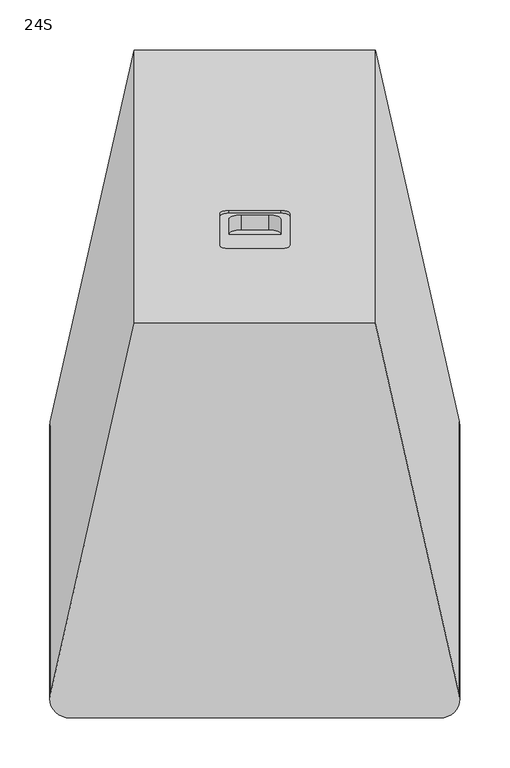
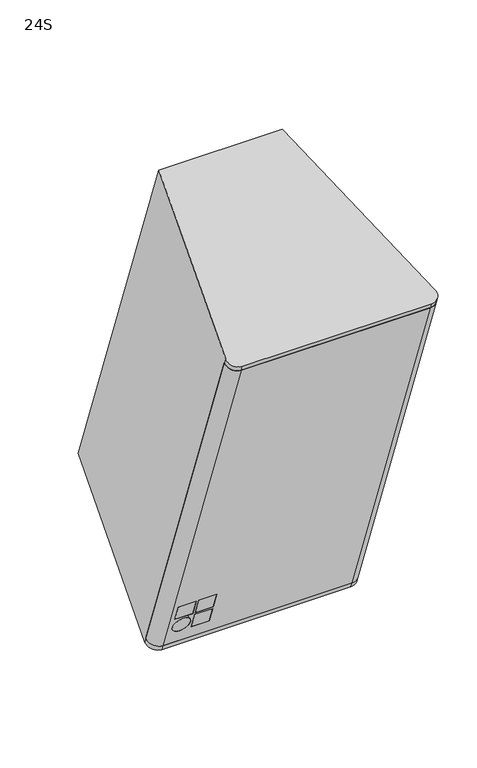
"""IFC4 building model written with IfcOpenShell, lengths in millimetres: proxy geometry, d&b xS-Series 24S Point Source : 24S."""

from ifc_helpers import new_model, si_unit, point, frame, frame_2d, origin, place, context, project, spatial, polyline, circle_curve, trimmed, segment, composite_curve, outline, extrude, source, transform, mapped, element, save
from ifc_brep_helpers import plane_surface, cylinder_surface, revolved_surface, advanced_brep


def proxy_24s_20e2b4ed(model_context):
    return source(origin(), model_context, "Body", "SolidModel", [
        extrude(outline(composite_curve([segment(polyline([(-4.1582338, -29.4121161), (-4.1582338, 370.0162299)]), True, "CONTINUOUS"), segment(trimmed(circle_curve(frame_2d((0.0, 355.6041138)), 15.0), [point((-4.1582338, 370.0162299))], [point((15.0, 355.6041138))], False, "CARTESIAN"), True, "CONTINUOUS"), segment(polyline([(15.0, 355.6041138), (15.0, -15.0)]), True, "CONTINUOUS"), segment(trimmed(circle_curve(frame_2d((0.0, -15.0)), 15.0), [point((15.0, -15.0))], [point((-4.1582338, -29.4121161))], False, "CARTESIAN"), True, "CONTINUOUS")], self_intersect=False)), frame((-170.3020569, -45.4957622, -430.5242567), z_axis=(0.0, -0.34202014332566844, 0.9396926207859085), x_axis=(0.0, -0.9396926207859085, -0.34202014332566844)), (0.0, 0.0, 1.0), 778.0),
        advanced_brep(
        [(-140.3020569, -99.8597095, -339.636627), (-140.3020569, -95.1612464, -337.9265263), (-140.3020569, -83.1905414, -370.815768), (-140.3020569, -87.8890045, -372.5258687), (-175.3020569, -83.1905414, -370.815768), (-175.3020569, -87.8890045, -372.5258687), (-175.3020569, -95.1612464, -337.9265263), (-175.3020569, -99.8597095, -339.636627), (-100.3020569, -99.8597095, -339.636627), (-100.3020569, -95.1612464, -337.9265263), (-100.3020569, -83.1905414, -370.815768), (-100.3020569, -87.8890045, -372.5258687), (-135.3020569, -83.1905414, -370.815768), (-135.3020569, -87.8890045, -372.5258687), (-135.3020569, -95.1612464, -337.9265263), (-135.3020569, -99.8597095, -339.636627), (-100.3020569, -86.1789038, -377.2243319), (-100.3020569, -81.4804407, -375.5142311), (-100.3020569, -69.5097357, -408.4034729), (-100.3020569, -74.2081988, -410.1135736), (-135.3020569, -69.5097357, -408.4034729), (-135.3020569, -74.2081988, -410.1135736), (-135.3020569, -81.4804407, -375.5142311), (-135.3020569, -86.1789038, -377.2243319), (-157.8020569, -74.2081988, -410.1135736), (-157.8020569, -69.5097357, -408.4034729), (-157.8020569, -81.4804407, -375.5142311), (-157.8020569, -86.1789038, -377.2243319), (185.3020569, -330.3812861, 293.7161994), (204.8650089, -307.6799721, 301.978802), (199.714173, -307.6799721, 301.978802), (185.3020569, -325.682823, 295.4263001), (-185.3020569, -325.682823, 295.4263001), (-199.714173, -307.6799721, 301.978802), (-204.8650089, -307.6799721, 301.978802), (-185.3020569, -330.3812861, 293.7161994), (185.3020569, -64.2896146, -437.3646596), (-185.3020569, -64.2896146, -437.3646596), (-204.8650089, -41.5883006, -429.102057), (-199.714173, -41.5883006, -429.102057), (-185.3020569, -59.5911515, -435.6545589), (185.3020569, -59.5911515, -435.6545589), (199.714173, -41.5883006, -429.102057), (204.8650089, -41.5883006, -429.102057)],
        [
            (0, 1),
            (1, 2),
            (2, 3),
            (3, 0),
            (2, 4),
            (4, 5),
            (5, 3),
            (4, 6),
            (6, 7),
            (7, 5),
            (0, 7),
            (6, 1),
            (8, 9),
            (9, 10),
            (10, 11),
            (11, 8),
            (10, 12),
            (12, 13),
            (13, 11),
            (12, 14),
            (14, 15),
            (15, 13),
            (8, 15),
            (14, 9),
            (16, 17),
            (17, 18),
            (18, 19),
            (19, 16),
            (18, 20),
            (20, 21),
            (21, 19),
            (20, 22),
            (22, 23),
            (23, 21),
            (16, 23),
            (22, 17),
            (24, 25),
            (25, 26, circle_curve(frame((-157.8020569, -75.4950882, -391.958852), z_axis=(0.0, 0.939692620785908, 0.34202014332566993), x_axis=(0.0, -0.34202014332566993, 0.939692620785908)), 17.5)),
            (26, 27),
            (27, 24, circle_curve(frame((-157.8020569, -80.1935513, -393.6689527), z_axis=(0.0, -0.939692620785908, -0.34202014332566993), x_axis=(0.0, -0.34202014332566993, 0.939692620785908)), 17.5)),
            (24, 27, circle_curve(frame((-157.8020569, -80.1935513, -393.6689527), z_axis=(0.0, -0.939692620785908, -0.34202014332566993), x_axis=(0.0, -0.34202014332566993, 0.939692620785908)), 17.5)),
            (26, 25, circle_curve(frame((-157.8020569, -75.4950882, -391.958852), z_axis=(0.0, 0.939692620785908, 0.34202014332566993), x_axis=(0.0, -0.34202014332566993, 0.939692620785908)), 17.5)),
            (28, 29, circle_curve(frame((185.3020569, -311.5874337, 300.5566023), z_axis=(0.0, -0.34202014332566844, 0.9396926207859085), x_axis=(0.0, -0.9396926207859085, -0.34202014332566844)), 20.0)),
            (29, 30),
            (30, 31, circle_curve(frame((185.3020569, -311.5874337, 300.5566023), z_axis=(0.0, 0.34202014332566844, -0.9396926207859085), x_axis=(0.0, -0.9396926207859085, -0.34202014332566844)), 15.0)),
            (31, 32),
            (32, 33, circle_curve(frame((-185.3020569, -311.5874337, 300.5566023), z_axis=(0.0, 0.34202014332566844, -0.9396926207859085), x_axis=(0.0, -0.9396926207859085, -0.34202014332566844)), 15.0)),
            (33, 34),
            (34, 35, circle_curve(frame((-185.3020569, -311.5874337, 300.5566023), z_axis=(0.0, -0.34202014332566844, 0.9396926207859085), x_axis=(0.0, -0.9396926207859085, -0.34202014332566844)), 20.0)),
            (35, 28),
            (36, 37),
            (37, 38, circle_curve(frame((-185.3020569, -45.4957622, -430.5242567), z_axis=(0.0, 0.34202014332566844, -0.9396926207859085), x_axis=(0.0, -0.9396926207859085, -0.34202014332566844)), 20.0)),
            (38, 39),
            (39, 40, circle_curve(frame((-185.3020569, -45.4957622, -430.5242567), z_axis=(0.0, -0.34202014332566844, 0.9396926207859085), x_axis=(0.0, -0.9396926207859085, -0.34202014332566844)), 15.0)),
            (40, 41),
            (41, 42, circle_curve(frame((185.3020569, -45.4957622, -430.5242567), z_axis=(0.0, -0.34202014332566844, 0.9396926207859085), x_axis=(0.0, -0.9396926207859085, -0.34202014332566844)), 15.0)),
            (42, 43),
            (43, 36, circle_curve(frame((185.3020569, -45.4957622, -430.5242567), z_axis=(0.0, 0.34202014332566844, -0.9396926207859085), x_axis=(0.0, -0.9396926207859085, -0.34202014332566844)), 20.0)),
            (28, 36),
            (43, 29),
            (42, 30),
            (41, 31),
            (40, 32),
            (39, 33),
            (38, 34),
            (37, 35),
        ],
        [
            plane_surface(frame((-140.3020569, -87.8890045, -372.5258687), z_axis=(-1.0, 0.0, 0.0), x_axis=(0.0, 0.9396926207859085, 0.34202014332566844))),
            plane_surface(frame((-175.3020569, -87.8890045, -372.5258687), z_axis=(0.0, -0.34202014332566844, 0.9396926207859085), x_axis=(0.0, 0.9396926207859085, 0.34202014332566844))),
            plane_surface(frame((-175.3020569, -99.8597095, -339.636627), z_axis=(1.0, 0.0, 0.0), x_axis=(0.0, 0.9396926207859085, 0.34202014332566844))),
            plane_surface(frame((-140.3020569, -99.8597095, -339.636627), z_axis=(0.0, 0.34202014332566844, -0.9396926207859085), x_axis=(0.0, 0.9396926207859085, 0.34202014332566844))),
            plane_surface(frame((-100.3020569, -87.8890045, -372.5258687), z_axis=(-1.0, 0.0, 0.0), x_axis=(0.0, 0.9396926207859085, 0.34202014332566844))),
            plane_surface(frame((-135.3020569, -87.8890045, -372.5258687), z_axis=(0.0, -0.34202014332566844, 0.9396926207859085), x_axis=(0.0, 0.9396926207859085, 0.34202014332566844))),
            plane_surface(frame((-135.3020569, -99.8597095, -339.636627), z_axis=(1.0, 0.0, 0.0), x_axis=(0.0, 0.9396926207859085, 0.34202014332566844))),
            plane_surface(frame((-100.3020569, -99.8597095, -339.636627), z_axis=(0.0, 0.34202014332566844, -0.9396926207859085), x_axis=(0.0, 0.9396926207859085, 0.34202014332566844))),
            plane_surface(frame((-100.3020569, -74.2081988, -410.1135736), z_axis=(-1.0, 0.0, 0.0), x_axis=(0.0, 0.9396926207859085, 0.34202014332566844))),
            plane_surface(frame((-135.3020569, -74.2081988, -410.1135736), z_axis=(0.0, -0.34202014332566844, 0.9396926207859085), x_axis=(0.0, 0.9396926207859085, 0.34202014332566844))),
            plane_surface(frame((-135.3020569, -86.1789038, -377.2243319), z_axis=(1.0, 0.0, 0.0), x_axis=(0.0, 0.9396926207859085, 0.34202014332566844))),
            plane_surface(frame((-100.3020569, -86.1789038, -377.2243319), z_axis=(0.0, 0.34202014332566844, -0.9396926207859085), x_axis=(0.0, 0.9396926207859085, 0.34202014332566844))),
            revolved_surface(polyline([(-157.8020569, -86.17890381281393, -377.22433188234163), (-157.8020569, -81.48044067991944, -375.5142311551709)]), (-157.8020569, -23.5749174, -373.0614553), (0.0, -0.939692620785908, -0.34202014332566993)),
            plane_surface(frame((185.3020569, -330.3812861, 293.7161994), z_axis=(0.0, -0.34202014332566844, 0.9396926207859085), x_axis=(1.0, 0.0, 0.0))),
            plane_surface(frame((185.3020569, -64.2896146, -437.3646596), z_axis=(0.0, 0.34202014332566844, -0.9396926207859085), x_axis=(-1.0, 0.0, 0.0))),
            cylinder_surface(frame((185.3020569, -45.4957622, -430.5242567), z_axis=(0.0, -0.34202014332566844, 0.9396926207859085), x_axis=(0.0, -0.9396926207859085, -0.34202014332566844)), 20.0),
            plane_surface(frame((204.8650089, -307.6799721, 301.978802), z_axis=(0.0, 0.9396926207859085, 0.34202014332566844), x_axis=(0.0, 0.34202014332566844, -0.9396926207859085))),
            revolved_surface(polyline([(185.3020569, -59.59115149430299, -435.65455889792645), (185.3020569, -325.68282302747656, 295.42630014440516)]), (185.3020569, -45.4957622, -430.5242567), (0.0, 0.34202014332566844, -0.9396926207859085)),
            plane_surface(frame((185.3020569, -325.682823, 295.4263001), z_axis=(0.0, 0.9396926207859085, 0.34202014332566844), x_axis=(0.0, 0.34202014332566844, -0.9396926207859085))),
            revolved_surface(polyline([(-185.3020569, -59.59115149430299, -435.65455889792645), (-185.3020569, -325.68282302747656, 295.42630014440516)]), (-185.3020569, -45.4957622, -430.5242567), (0.0, 0.34202014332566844, -0.9396926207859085)),
            plane_surface(frame((-199.714173, -307.6799721, 301.978802), z_axis=(0.0, 0.9396926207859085, 0.34202014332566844), x_axis=(0.0, 0.34202014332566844, -0.9396926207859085))),
            cylinder_surface(frame((-185.3020569, -45.4957622, -430.5242567), z_axis=(0.0, -0.34202014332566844, 0.9396926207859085), x_axis=(0.0, -0.9396926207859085, -0.34202014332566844)), 20.0),
            plane_surface(frame((-185.3020569, -330.3812861, 293.7161994), z_axis=(0.0, -0.9396926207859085, -0.34202014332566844), x_axis=(0.0, 0.34202014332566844, -0.9396926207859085))),
        ],
        [
            (0, [[1, 2, 3, 4]]),
            (1, [[-3, 5, 6, 7]]),
            (2, [[-6, 8, 9, 10]]),
            (3, [[-1, 11, -9, 12]]),
            (4, [[13, 14, 15, 16]]),
            (5, [[-15, 17, 18, 19]]),
            (6, [[-18, 20, 21, 22]]),
            (7, [[-13, 23, -21, 24]]),
            (8, [[25, 26, 27, 28]]),
            (9, [[-27, 29, 30, 31]]),
            (10, [[-30, 32, 33, 34]]),
            (11, [[-25, 35, -33, 36]]),
            (12, [[37, 38, 39, 40]]),
            (12, [[-37, 41, -39, 42]]),
            (13, [[43, 44, 45, 46, 47, 48, 49, 50]]),
            (14, [[51, 52, 53, 54, 55, 56, 57, 58]]),
            (15, [[-43, 59, -58, 60]]),
            (16, [[-44, -60, -57, 61]]),
            (17, [[-45, -61, -56, 62]]),
            (18, [[-46, -62, -55, 63], [-2, -12, -8, -5], [-14, -24, -20, -17], [-26, -36, -32, -29], [-38, -42]]),
            (19, [[-47, -63, -54, 64]]),
            (20, [[-48, -64, -53, 65]]),
            (21, [[-49, -65, -52, 66]]),
            (22, [[-50, -66, -51, -59], [-4, -7, -10, -11], [-16, -19, -22, -23], [-28, -31, -34, -35], [-40, -41]]),
        ],
    ),
        extrude(outline(polyline([(0.0, -35.0), (0.0, 0.0), (5.0, 0.0), (5.0, -35.0), (0.0, -35.0)])), frame((-175.3020569, -87.8890045, -372.5258687), z_axis=(0.0, -0.34202014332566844, 0.9396926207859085), x_axis=(0.0, 0.9396926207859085, 0.34202014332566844)), (0.0, 0.0, 1.0), 35.0),
        extrude(outline(polyline([(0.0, -35.0), (0.0, 0.0), (5.0, 0.0), (5.0, -35.0), (0.0, -35.0)])), frame((-135.3020569, -87.8890045, -372.5258687), z_axis=(0.0, -0.34202014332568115, 0.9396926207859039), x_axis=(0.0, 0.9396926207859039, 0.34202014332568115)), (0.0, 0.0, 1.0), 35.0),
        extrude(outline(polyline([(0.0, -35.0), (0.0, 0.0), (5.0, 0.0), (5.0, -35.0), (0.0, -35.0)])), frame((-135.3020569, -74.2081988, -410.1135736), z_axis=(0.0, -0.34202014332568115, 0.9396926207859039), x_axis=(0.0, 0.9396926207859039, 0.34202014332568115)), (0.0, 0.0, 1.0), 35.0),
        extrude(outline(composite_curve([segment(trimmed(circle_curve(frame_2d((-12.5, -57.5)), 17.5), [point((-12.5, -75.0))], [point((-12.5, -40.0000001))], False, "CARTESIAN"), True, "CONTINUOUS"), segment(trimmed(circle_curve(frame_2d((-12.5, -57.5)), 17.5), [point((-12.5, -40.0000001))], [point((-12.5, -75.0))], False, "CARTESIAN"), True, "CONTINUOUS")], self_intersect=False)), frame((-170.3020569, -99.8597095, -339.636627), z_axis=(0.0, 0.939692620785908, 0.34202014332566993), x_axis=(-1.0, 0.0, 0.0)), (0.0, 0.0, 1.0), 5.0),
        advanced_brep(
        [(120.7262441, 334.1435077, -304.0528182), (204.8650089, -37.826079, -439.4386758), (185.3020569, -60.527393, -447.7012784), (-185.3020569, -60.527393, -447.7012784), (-204.8650089, -37.826079, -439.4386758), (-120.7262441, 334.1435077, -304.0528182), (120.7262441, 60.527393, 447.7012784), (-120.7262441, 60.527393, 447.7012784), (-204.8650089, -311.4421936, 312.3154208), (-185.3020569, -334.1435077, 304.0528182), (185.3020569, -334.1435077, 304.0528182), (204.8650089, -311.4421936, 312.3154208), (-35.0, 135.8599179, 231.9554541), (-26.0, 132.7817366, 240.4126877), (26.0, 132.7817366, 240.4126877), (35.0, 135.8599179, 231.9554541), (35.0, 167.6677913, 144.5640404), (26.0, 170.7459725, 136.1068068), (-26.0, 170.7459725, 136.1068068), (-35.0, 167.6677913, 144.5640404), (-25.9695321, 164.9316301, 152.0815814), (-13.9695321, 169.0358718, 140.8052699), (13.9695321, 169.0358718, 140.8052699), (25.9695321, 164.9316301, 152.0815814), (25.9695321, 149.8827438, 193.4280567), (-25.9695321, 149.8827438, 193.4280567), (-35.0, 138.6789958, 232.9815146), (-26.0, 135.6008145, 241.4387482), (26.0, 135.6008145, 241.4387482), (35.0, 138.6789958, 232.9815146), (35.0, 170.4868691, 145.5901008), (26.0, 173.5650504, 137.1328672), (-26.0, 173.5650504, 137.1328672), (-35.0, 170.4868691, 145.5901008), (-13.9695321, 154.0007899, 135.3329476), (-25.9695321, 149.8965482, 146.6092591), (-25.9695321, 134.8476619, 187.9557344), (25.9695321, 134.8476619, 187.9557344), (25.9695321, 149.8965482, 146.6092591), (13.9695321, 154.0007899, 135.3329476), (185.3020569, -330.3812861, 293.7161994), (-185.3020569, -330.3812861, 293.7161994), (-204.8650089, -307.6799721, 301.978802), (204.8650089, -307.6799721, 301.978802), (204.8650089, -41.5883006, -429.102057), (-204.8650089, -41.5883006, -429.102057), (185.3020569, -64.2896146, -437.3646596), (-185.3020569, -64.2896146, -437.3646596)],
        [
            (0, 1),
            (1, 2, circle_curve(frame((185.3020569, -41.7335406, -440.8608755), z_axis=(0.0, 0.34202014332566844, -0.9396926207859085), x_axis=(0.0, -0.9396926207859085, -0.34202014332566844)), 20.0)),
            (2, 3),
            (3, 4, circle_curve(frame((-185.3020569, -41.7335406, -440.8608755), z_axis=(0.0, 0.34202014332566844, -0.9396926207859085), x_axis=(0.0, -0.9396926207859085, -0.34202014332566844)), 20.0)),
            (4, 5),
            (5, 0),
            (6, 7),
            (7, 8),
            (8, 9, circle_curve(frame((-185.3020569, -315.3496553, 310.8932211), z_axis=(0.0, -0.34202014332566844, 0.9396926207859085), x_axis=(0.0, -0.9396926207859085, -0.34202014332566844)), 20.0)),
            (9, 10),
            (10, 11, circle_curve(frame((185.3020569, -315.3496553, 310.8932211), z_axis=(0.0, -0.34202014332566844, 0.9396926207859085), x_axis=(0.0, -0.9396926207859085, -0.34202014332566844)), 20.0)),
            (11, 6),
            (12, 13, circle_curve(frame((-26.0, 135.8599179, 231.9554541), z_axis=(0.0, 0.9396926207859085, 0.34202014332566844), x_axis=(-1.0, 0.0, 0.0)), 9.0)),
            (13, 14),
            (14, 15, circle_curve(frame((26.0, 135.8599179, 231.9554541), z_axis=(0.0, 0.9396926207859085, 0.34202014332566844), x_axis=(-1.0, 0.0, 0.0)), 9.0)),
            (15, 16),
            (16, 17, circle_curve(frame((26.0, 167.6677913, 144.5640404), z_axis=(0.0, 0.9396926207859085, 0.34202014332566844), x_axis=(-1.0, 0.0, 0.0)), 9.0)),
            (17, 18),
            (18, 19, circle_curve(frame((-26.0, 167.6677913, 144.5640404), z_axis=(0.0, 0.9396926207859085, 0.34202014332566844), x_axis=(-1.0, 0.0, 0.0)), 9.0)),
            (19, 12),
            (20, 21, circle_curve(frame((-13.9695321, 164.9316301, 152.0815814), z_axis=(0.0, -0.9396926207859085, -0.34202014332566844), x_axis=(-1.0, 0.0, 0.0)), 12.0)),
            (21, 22),
            (22, 23, circle_curve(frame((13.9695321, 164.9316301, 152.0815814), z_axis=(0.0, -0.9396926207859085, -0.34202014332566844), x_axis=(-1.0, 0.0, 0.0)), 12.0)),
            (23, 24),
            (24, 25),
            (25, 20),
            (12, 26),
            (26, 27, circle_curve(frame((-26.0, 138.6789958, 232.9815146), z_axis=(0.0, 0.9396926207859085, 0.34202014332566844), x_axis=(-1.0, 0.0, 0.0)), 9.0)),
            (27, 13),
            (27, 28),
            (28, 14),
            (28, 29, circle_curve(frame((26.0, 138.6789958, 232.9815146), z_axis=(0.0, 0.9396926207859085, 0.34202014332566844), x_axis=(-1.0, 0.0, 0.0)), 9.0)),
            (29, 15),
            (29, 30),
            (30, 16),
            (30, 31, circle_curve(frame((26.0, 170.4868691, 145.5901008), z_axis=(0.0, 0.9396926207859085, 0.34202014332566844), x_axis=(-1.0, 0.0, 0.0)), 9.0)),
            (31, 17),
            (31, 32),
            (32, 18),
            (32, 33, circle_curve(frame((-26.0, 170.4868691, 145.5901008), z_axis=(0.0, 0.9396926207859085, 0.34202014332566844), x_axis=(-1.0, 0.0, 0.0)), 9.0)),
            (33, 19),
            (33, 26),
            (34, 35, circle_curve(frame((-13.9695321, 149.8965482, 146.6092591), z_axis=(0.0, 0.9396926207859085, 0.34202014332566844), x_axis=(-1.0, 0.0, 0.0)), 12.0)),
            (35, 36),
            (36, 37),
            (37, 38),
            (38, 39, circle_curve(frame((13.9695321, 149.8965482, 146.6092591), z_axis=(0.0, 0.9396926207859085, 0.34202014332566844), x_axis=(-1.0, 0.0, 0.0)), 12.0)),
            (39, 34),
            (40, 41),
            (41, 42, circle_curve(frame((-185.3020569, -311.5874337, 300.5566023), z_axis=(0.0, 0.34202014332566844, -0.9396926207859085), x_axis=(0.0, -0.9396926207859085, -0.34202014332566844)), 20.0)),
            (42, 43),
            (43, 40, circle_curve(frame((185.3020569, -311.5874337, 300.5566023), z_axis=(0.0, 0.34202014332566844, -0.9396926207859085), x_axis=(0.0, -0.9396926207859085, -0.34202014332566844)), 20.0)),
            (0, 6),
            (11, 43),
            (43, 44),
            (44, 1),
            (42, 45),
            (45, 44),
            (4, 45),
            (42, 8),
            (7, 5),
            (10, 40),
            (9, 41),
            (34, 21),
            (20, 35),
            (25, 36),
            (24, 37),
            (23, 38),
            (22, 39),
            (46, 44, circle_curve(frame((185.3020569, -45.4957622, -430.5242567), z_axis=(0.0, -0.34202014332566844, 0.9396926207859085), x_axis=(0.0, -0.9396926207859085, -0.34202014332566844)), 20.0)),
            (45, 47, circle_curve(frame((-185.3020569, -45.4957622, -430.5242567), z_axis=(0.0, -0.34202014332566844, 0.9396926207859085), x_axis=(0.0, -0.9396926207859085, -0.34202014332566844)), 20.0)),
            (47, 46),
            (46, 2),
            (3, 47),
        ],
        [
            plane_surface(frame((204.8650089, -37.826079, -439.4386758), z_axis=(0.0, 0.34202014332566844, -0.9396926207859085), x_axis=(0.2079116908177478, -0.9191580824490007, -0.33454618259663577))),
            plane_surface(frame((204.8650089, -311.4421936, 312.3154208), z_axis=(0.0, -0.34202014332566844, 0.9396926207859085), x_axis=(-0.2079116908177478, 0.9191580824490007, 0.33454618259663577))),
            plane_surface(frame((-35.0, 135.8599179, 231.9554541), z_axis=(0.0, 0.9396926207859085, 0.34202014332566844), x_axis=(0.0, 0.34202014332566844, -0.9396926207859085))),
            revolved_surface(polyline([(-35.0, 138.67899581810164, 232.98151455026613), (-35.0, 135.85991789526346, 231.95545409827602)]), (-26.0, 135.8599179, 231.9554541), (0.0, 0.9396926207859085, 0.34202014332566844)),
            plane_surface(frame((-26.0, 135.6008145, 241.4387482), z_axis=(0.0, 0.34202014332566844, -0.9396926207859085), x_axis=(0.0, -0.9396926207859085, -0.34202014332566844))),
            revolved_surface(polyline([(17.0, 138.67899581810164, 232.98151455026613), (17.0, 135.85991789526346, 231.95545409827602)]), (26.0, 135.8599179, 231.9554541), (0.0, 0.9396926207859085, 0.34202014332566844)),
            plane_surface(frame((35.0, 138.6789958, 232.9815146), z_axis=(-1.0, 0.0, 0.0), x_axis=(0.0, -0.9396926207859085, -0.34202014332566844))),
            revolved_surface(polyline([(17.0, 170.48686910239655, 145.59010080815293), (17.0, 167.6677912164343, 144.56404036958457)]), (26.0, 167.6677913, 144.5640404), (0.0, 0.9396926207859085, 0.34202014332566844)),
            plane_surface(frame((26.0, 173.5650504, 137.1328672), z_axis=(0.0, -0.34202014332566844, 0.9396926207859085), x_axis=(0.0, -0.9396926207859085, -0.34202014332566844))),
            revolved_surface(polyline([(-35.0, 170.48686910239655, 145.59010080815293), (-35.0, 167.6677912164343, 144.56404036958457)]), (-26.0, 167.6677913, 144.5640404), (0.0, 0.9396926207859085, 0.34202014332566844)),
            plane_surface(frame((-35.0, 170.4868691, 145.5901008), z_axis=(1.0, 0.0, 0.0), x_axis=(0.0, -0.9396926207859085, -0.34202014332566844))),
            plane_surface(frame((-25.9695321, 149.8965482, 146.6092591), z_axis=(0.0, 0.9396926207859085, 0.34202014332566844), x_axis=(0.0, 0.34202014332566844, -0.9396926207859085))),
            plane_surface(frame((185.3020569, -330.3812861, 293.7161994), z_axis=(0.0, 0.34202014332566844, -0.9396926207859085), x_axis=(-1.0, 0.0, 0.0))),
            plane_surface(frame((120.7262441, 334.1435077, -304.0528182), z_axis=(0.9781476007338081, 0.19537308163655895, 0.07110998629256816), x_axis=(0.0, -0.34202014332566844, 0.9396926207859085))),
            plane_surface(frame((204.8650089, -37.826079, -439.4386758), z_axis=(0.0, -0.9396926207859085, -0.34202014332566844), x_axis=(0.0, -0.34202014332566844, 0.9396926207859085))),
            plane_surface(frame((-204.8650089, -37.826079, -439.4386758), z_axis=(-0.9781476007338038, 0.1953730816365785, 0.07110998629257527), x_axis=(0.0, -0.34202014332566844, 0.9396926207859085))),
            plane_surface(frame((-120.7262441, 334.1435077, -304.0528182), z_axis=(0.0, 0.9396926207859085, 0.34202014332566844), x_axis=(0.0, -0.34202014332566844, 0.9396926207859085))),
            cylinder_surface(frame((185.3020569, -311.5874337, 300.5566023), z_axis=(0.0, -0.34202014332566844, 0.9396926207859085), x_axis=(0.0, -0.9396926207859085, -0.34202014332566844)), 20.0),
            plane_surface(frame((-185.3020569, -334.1435077, 304.0528182), z_axis=(0.0, -0.9396926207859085, -0.34202014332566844), x_axis=(0.0, 0.34202014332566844, -0.9396926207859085))),
            revolved_surface(polyline([(-25.969532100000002, 164.93163010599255, 152.08158138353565), (-25.969532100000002, 149.89654816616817, 146.6092590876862)]), (-13.9695321, 149.8965482, 146.6092591), (0.0, 0.9396926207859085, 0.34202014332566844)),
            plane_surface(frame((-25.9695321, 167.750708, 153.1076418), z_axis=(1.0, 0.0, 0.0), x_axis=(0.0, -0.9396926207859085, -0.34202014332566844))),
            plane_surface(frame((-25.9695321, 152.7018217, 194.4541171), z_axis=(0.0, 0.34202014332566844, -0.9396926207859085), x_axis=(0.0, -0.9396926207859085, -0.34202014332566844))),
            plane_surface(frame((25.9695321, 152.7018217, 194.4541171), z_axis=(-1.0, 0.0, 0.0), x_axis=(0.0, -0.9396926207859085, -0.34202014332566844))),
            revolved_surface(polyline([(1.9695321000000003, 164.93163010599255, 152.08158138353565), (1.9695321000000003, 149.89654816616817, 146.6092590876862)]), (13.9695321, 149.8965482, 146.6092591), (0.0, 0.9396926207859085, 0.34202014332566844)),
            plane_surface(frame((13.9695321, 171.8549497, 141.8313303), z_axis=(0.0, -0.34202014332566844, 0.9396926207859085), x_axis=(0.0, -0.9396926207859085, -0.34202014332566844))),
            plane_surface(frame((185.3020569, -64.2896146, -437.3646596), z_axis=(0.0, -0.34202014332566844, 0.9396926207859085), x_axis=(1.0, 0.0, 0.0))),
            cylinder_surface(frame((-185.3020569, -311.5874337, 300.5566023), z_axis=(0.0, -0.34202014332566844, 0.9396926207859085), x_axis=(0.0, -0.9396926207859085, -0.34202014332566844)), 20.0),
            cylinder_surface(frame((185.3020569, -41.7335406, -440.8608755), z_axis=(0.0, -0.34202014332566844, 0.9396926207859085), x_axis=(0.0, -0.9396926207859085, -0.34202014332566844)), 20.0),
            cylinder_surface(frame((-185.3020569, -41.7335406, -440.8608755), z_axis=(0.0, -0.34202014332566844, 0.9396926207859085), x_axis=(0.0, -0.9396926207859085, -0.34202014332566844)), 20.0),
            plane_surface(frame((-185.3020569, -64.2896146, -437.3646596), z_axis=(0.0, -0.9396926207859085, -0.34202014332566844), x_axis=(0.0, 0.34202014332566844, -0.9396926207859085))),
        ],
        [
            (0, [[1, 2, 3, 4, 5, 6]]),
            (1, [[7, 8, 9, 10, 11, 12]]),
            (2, [[13, 14, 15, 16, 17, 18, 19, 20], [21, 22, 23, 24, 25, 26]]),
            (3, [[-13, 27, 28, 29]]),
            (4, [[-14, -29, 30, 31]]),
            (5, [[-15, -31, 32, 33]]),
            (6, [[-16, -33, 34, 35]]),
            (7, [[-17, -35, 36, 37]]),
            (8, [[-18, -37, 38, 39]]),
            (9, [[-19, -39, 40, 41]]),
            (10, [[-20, -41, 42, -27]]),
            (11, [[43, 44, 45, 46, 47, 48]]),
            (12, [[49, 50, 51, 52]]),
            (13, [[-1, 53, -12, 54, 55, 56]]),
            (14, [[-51, 57, 58, -55]]),
            (15, [[-5, 59, -57, 60, -8, 61]]),
            (16, [[-6, -61, -7, -53], [-28, -42, -40, -38, -36, -34, -32, -30]]),
            (17, [[-11, 62, -52, -54]]),
            (18, [[-10, 63, -49, -62]]),
            (19, [[-43, 64, -21, 65]]),
            (20, [[-44, -65, -26, 66]]),
            (21, [[-45, -66, -25, 67]]),
            (22, [[-46, -67, -24, 68]]),
            (23, [[-47, -68, -23, 69]]),
            (24, [[-48, -69, -22, -64]]),
            (25, [[70, -58, 71, 72]]),
            (26, [[-9, -60, -50, -63]]),
            (27, [[-70, 73, -2, -56]]),
            (28, [[-71, -59, -4, 74]]),
            (29, [[-72, -74, -3, -73]]),
        ],
    ),
    ])


if __name__ == "__main__":
    model = new_model("IFC4")
    model_context = context("Model", 3, world=origin())
    ifc_project = project(units=[si_unit("LENGTHUNIT", "METRE", prefix="MILLI")], contexts=[model_context])
    site = spatial("IfcSite", under=ifc_project)
    building = spatial("IfcBuilding", under=site)
    placement = place(None, origin())
    proxy_24s_shape = proxy_24s_20e2b4ed(model_context)
    element("IfcBuildingElementProxy", 1, Name="d&b xS-Series 24S Point Source : 24S", ObjectType="d&b xS-Series 24S Point Source : 24S", at=placement, inside=building, context=model_context, shape_type="MappedRepresentation", body=[
        mapped(proxy_24s_shape, transform((0.0, 0.0, 0.0), x_axis=(1.0, 0.0, 0.0), y_axis=(0.0, 1.0, 0.0), z_axis=(0.0, 0.0, 1.0))),
    ])
    save(model, "model.ifc")
